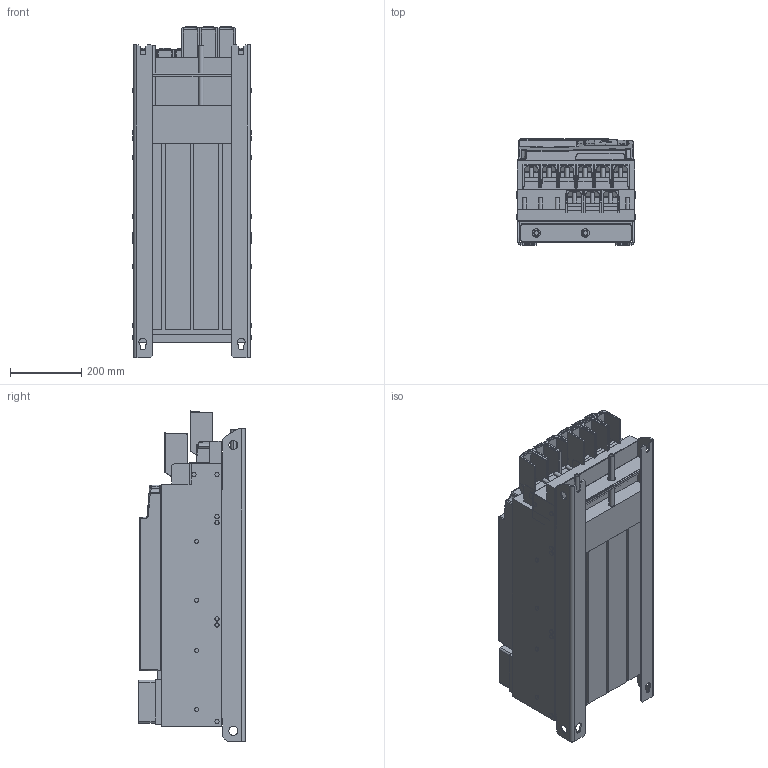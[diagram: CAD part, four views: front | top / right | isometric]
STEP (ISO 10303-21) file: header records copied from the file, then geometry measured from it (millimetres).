
FILE_DESCRIPTION (( 'STEP AP214' ), '1' );
FILE_NAME ('F6-8TW0-K001.STEP', '2021-03-02T07:37:46', ( '' ), ( '' ), 'SwSTEP 2.0', 'SolidWorks 2019', '' );
FILE_SCHEMA (( 'AUTOMOTIVE_DESIGN' ));
Length unit declared in the file: millimetre
Products named in the file (13): 10047771_000_Kundenmodell; 10063199_000; F6-8TW0-K001; 10059765_000; 10063225_000; 10040552_000_Kundenmodell; 10058413_000; 10063887_000_F6-8 Leistungsteil TW0 (Kundenmodell + BW); 10035735_000_Kundenmodell; 10059764_000_Blindabdeckung (Kundenmodell); 10038044_000_Kundemodell; 10063180_000; 10063897_000
Assembly tree (12 placements, depth 4):
  F6-8TW0-K001
    10063887_000_F6-8 Leistungsteil TW0 (Kundenmodell + BW)
      10038044_000_Kundemodell
        10063180_000
      10063897_000
    10040552_000_Kundenmodell
      10047771_000_Kundenmodell
        10063225_000
      10063199_000
    10035735_000_Kundenmodell
      10059764_000_Blindabdeckung (Kundenmodell)
        10059765_000
      10058413_000
Bounding box: 335.5 x 296.9 x 926.37 mm (x, y, z)
Volume: 65157086.3 mm3; surface area: 3061994.1 mm2
Topology: 6 solids, 30 shells, 2731 faces, 6944 edges, 4296 vertices
Faces by surface type: plane 1466, cylinder 767, bspline 209, sphere 154, cone 90, torus 45
Entity records: 87776 total; most frequent: CARTESIAN_POINT 23493, ORIENTED_EDGE 13666, DIRECTION 12696, EDGE_CURVE 6833, VECTOR 4442, LINE 4442, VERTEX_POINT 4293, AXIS2_PLACEMENT_3D 4127
